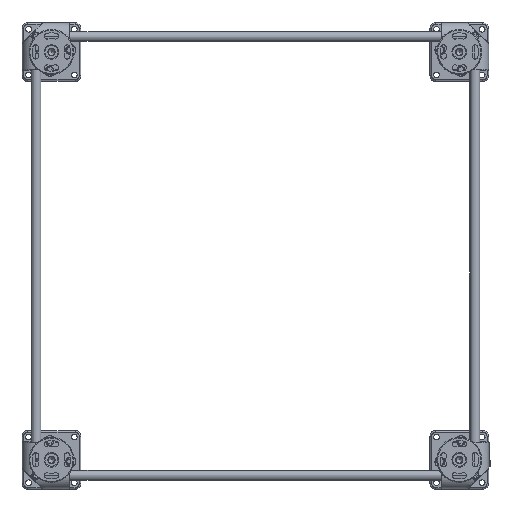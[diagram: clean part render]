
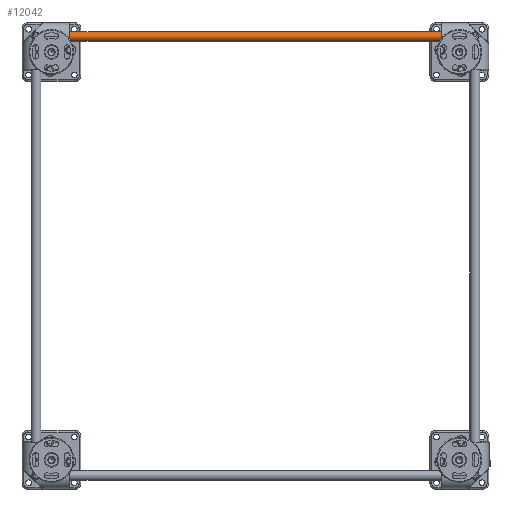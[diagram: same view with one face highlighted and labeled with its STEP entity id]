
A CAD part, top view. The second image highlights one B-rep face of the part: STEP entity #12042.
In plain terms, the highlighted cylindrical face has radius 6 mm (diameter 12 mm), a full revolution.
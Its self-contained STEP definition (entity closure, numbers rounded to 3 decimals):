
#12042=ADVANCED_FACE('',(#29641,#29642),#29643,.T.);
#29641=FACE_OUTER_BOUND('',#58139,.T.);
#29642=FACE_OUTER_BOUND('',#58140,.T.);
#29643=CYLINDRICAL_SURFACE('',#58141,6.0);
#58139=EDGE_LOOP('',(#131094));
#58140=EDGE_LOOP('',(#131095));
#58141=AXIS2_PLACEMENT_3D('',#131096,#131097,#131098);
#131094=ORIENTED_EDGE('',*,*,#155035,.T.);
#131095=ORIENTED_EDGE('',*,*,#155032,.T.);
#131096=CARTESIAN_POINT('',(0.0,0.0,522.0));
#131097=DIRECTION('',(0.0,0.0,-1.0));
#131098=DIRECTION('',(-1.0,0.0,0.0));
#155032=EDGE_CURVE('',#194738,#194738,#194739,.F.);
#155035=EDGE_CURVE('',#194744,#194744,#194745,.T.);
#194738=VERTEX_POINT('',#261950);
#194739=CIRCLE('',#261951,6.0);
#194744=VERTEX_POINT('',#261956);
#194745=CIRCLE('',#261957,6.0);
#261950=CARTESIAN_POINT('',(6.0,0.0,521.5));
#261951=AXIS2_PLACEMENT_3D('',#288858,#288859,#288860);
#261956=CARTESIAN_POINT('',(6.0,0.0,0.5));
#261957=AXIS2_PLACEMENT_3D('',#288867,#288868,#288869);
#288858=CARTESIAN_POINT('',(0.0,0.0,521.5));
#288859=DIRECTION('',(0.0,0.0,1.0));
#288860=DIRECTION('',(1.0,0.0,0.0));
#288867=CARTESIAN_POINT('',(0.0,0.0,0.5));
#288868=DIRECTION('',(0.0,0.0,1.0));
#288869=DIRECTION('',(1.0,0.0,0.0));
